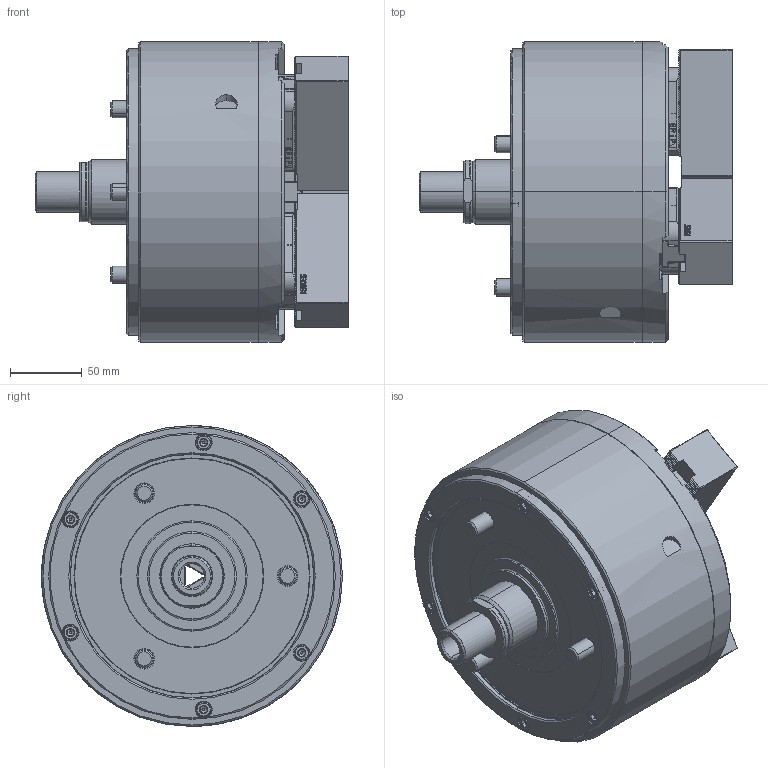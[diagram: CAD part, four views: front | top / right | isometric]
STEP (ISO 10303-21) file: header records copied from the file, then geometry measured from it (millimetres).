
FILE_DESCRIPTION (( 'STEP AP214' ), '1' );
FILE_NAME ('DL208_OC.STEP', '2019-11-12T03:53:40', ( '' ), ( '' ), 'SwSTEP 2.0', 'SolidWorks 2017', '' );
FILE_SCHEMA (( 'AUTOMOTIVE_DESIGN' ));
Length unit declared in the file: millimetre
Products named in the file (7): DL208_OC; 結合_OD; 0030112030; 61P451466; 61P304291
Assembly tree (13 placements, depth 2):
  DL208_OC
    61P304291  x3
    61P451466  x3
    0030112030
    0030112030
    0030112030  x4
    結合_OD
Bounding box: 218.96 x 210 x 210 mm (x, y, z)
Volume: 4021094.1 mm3; surface area: 314591.5 mm2
Topology: 13 solids, 13 shells, 7050 faces, 19490 edges, 12762 vertices
Faces by surface type: plane 4010, cylinder 1456, bspline 1189, cone 357, torus 38
Entity records: 206204 total; most frequent: CARTESIAN_POINT 77854, ORIENTED_EDGE 29936, DIRECTION 21381, EDGE_CURVE 14968, VECTOR 10139, LINE 10139, VERTEX_POINT 9813, EDGE_LOOP 5801
